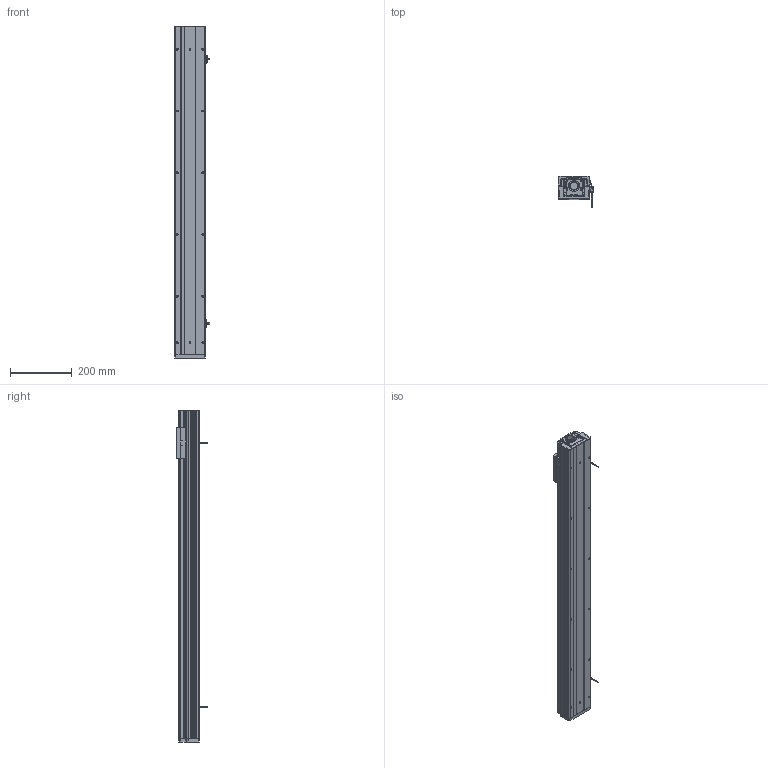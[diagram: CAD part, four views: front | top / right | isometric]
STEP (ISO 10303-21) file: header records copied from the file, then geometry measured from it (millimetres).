
FILE_DESCRIPTION (( 'STEP AP203' ), '1' );
FILE_NAME ('CTHM10-S850-O-BC.STEP', '2019-12-18T01:05:39', ( '微软用户' ), ( '微软中国' ), 'SwSTEP 2.0', 'SolidWorks 2017', '' );
FILE_SCHEMA (( 'CONFIG_CONTROL_DESIGN' ));
Length unit declared in the file: millimetre
Products named in the file (11): CTHM10盓傅耜; CTHM10固定侧自制轴承座; CTHM10裔啣(100); CTHM10傷裔(祥結裔啣); CTHM10綴傷裔; 覜茼え; 遣喳蝶15x12x8; CTHM10菁釱(200); EE-SX672-BR; CTHM10痄雄釱(党蜊); CTHM10-S850-O-BC
Assembly tree (14 placements, depth 2):
  CTHM10-S850-O-BC
    CTHM10菁釱(200)
    CTHM10痄雄釱(党蜊)
    CTHM10盓傅耜
    CTHM10固定侧自制轴承座
    CTHM10裔啣(100)
    CTHM10傷裔(祥結裔啣)
    CTHM10綴傷裔
    覜茼え
    遣喳蝶15x12x8  x4
    EE-SX672-BR  x2
Bounding box: 114.7 x 100.2 x 1075 mm (x, y, z)
Volume: 2730089 mm3; surface area: 913037.4 mm2
Topology: 14 solids, 14 shells, 960 faces, 2722 edges, 1776 vertices
Faces by surface type: cylinder 517, plane 399, cone 44
Entity records: 32565 total; most frequent: CARTESIAN_POINT 7857, DIRECTION 4964, ORIENTED_EDGE 4916, EDGE_CURVE 2458, AXIS2_PLACEMENT_3D 1821, VERTEX_POINT 1624, VECTOR 1322, LINE 1322
